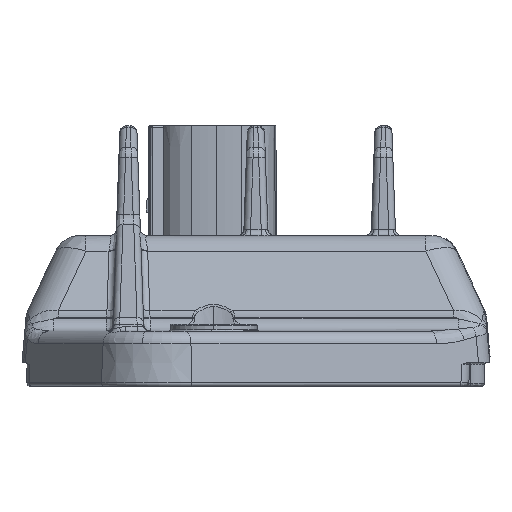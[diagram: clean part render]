
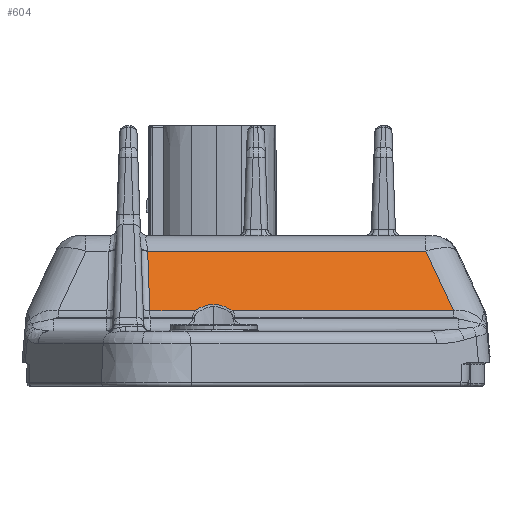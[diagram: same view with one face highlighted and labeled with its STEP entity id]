
A CAD part, left-side view. The second image highlights one B-rep face of the part: STEP entity #604.
In plain terms, the highlighted planar face has unit normal (-0.906, 0, 0.423).
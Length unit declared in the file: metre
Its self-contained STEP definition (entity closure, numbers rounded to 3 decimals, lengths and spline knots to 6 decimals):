
#604=ADVANCED_FACE('57:20342',(#2222),#2223,.T.);
#2222=FACE_OUTER_BOUND('',#7474,.T.);
#2223=PLANE('',#7475);
#7474=EDGE_LOOP('',(#19121,#19122,#19123,#19124,#19125,#19126));
#7475=AXIS2_PLACEMENT_3D('',#19127,#19128,#19129);
#19121=ORIENTED_EDGE('',*,*,#23769,.F.);
#19122=ORIENTED_EDGE('',*,*,#23770,.T.);
#19123=ORIENTED_EDGE('',*,*,#23142,.F.);
#19124=ORIENTED_EDGE('',*,*,#23765,.F.);
#19125=ORIENTED_EDGE('',*,*,#23771,.F.);
#19126=ORIENTED_EDGE('',*,*,#23772,.F.);
#19127=CARTESIAN_POINT('',(-0.06578,0.028425,0.00933));
#19128=DIRECTION('',(-0.906,0.0,0.423));
#19129=DIRECTION('',(0.0,1.0,0.0));
#23142=EDGE_CURVE('57:23804',#26203,#26205,#26206,.T.);
#23765=EDGE_CURVE('57:25817',#27180,#26203,#27182,.T.);
#23769=EDGE_CURVE('57:25829',#27188,#27189,#27190,.T.);
#23770=EDGE_CURVE('57:25832',#27188,#26205,#27191,.T.);
#23771=EDGE_CURVE('57:25835',#27192,#27180,#27193,.T.);
#23772=EDGE_CURVE('57:25838',#27189,#27192,#27194,.T.);
#26203=VERTEX_POINT('',#31377);
#26205=VERTEX_POINT('',#31383);
#26206=LINE('',#31384,#31385);
#27180=VERTEX_POINT('',#33573);
#27182=LINE('',#33575,#33576);
#27188=VERTEX_POINT('',#33585);
#27189=VERTEX_POINT('',#33586);
#27190=LINE('',#33587,#33588);
#27191=LINE('',#33589,#33590);
#27192=VERTEX_POINT('',#33591);
#27193=LINE('',#33592,#33593);
#27194=B_SPLINE_CURVE_WITH_KNOTS('',3,(#33594,#33595,#33596,#33597,#33598,#33599,#33600,#33601,#33602),.UNSPECIFIED.,.F.,.F.,(4,1,1,1,1,1,4),(0.0,0.166667,0.333333,0.5,0.666667,0.833333,1.0),.UNSPECIFIED.);
#31377=CARTESIAN_POINT('',(-0.061415,0.010299,0.01869));
#31383=CARTESIAN_POINT('',(-0.061415,-0.031224,0.01869));
#31384=CARTESIAN_POINT('',(-0.061415,0.010299,0.01869));
#31385=VECTOR('',#37486,0.041522);
#33573=CARTESIAN_POINT('',(-0.065556,0.009989,0.009809));
#33575=CARTESIAN_POINT('',(-0.065556,0.009989,0.009809));
#33576=VECTOR('',#38500,0.009804);
#33585=CARTESIAN_POINT('',(-0.065556,-0.035365,0.009809));
#33586=CARTESIAN_POINT('',(-0.065556,-0.002294,0.009809));
#33587=CARTESIAN_POINT('',(-0.065556,-0.035365,0.009809));
#33588=VECTOR('',#38504,0.033071);
#33589=CARTESIAN_POINT('',(-0.065556,-0.035365,0.009809));
#33590=VECTOR('',#38505,0.010638);
#33591=CARTESIAN_POINT('',(-0.065556,0.003144,0.009809));
#33592=CARTESIAN_POINT('',(-0.065556,0.003144,0.009809));
#33593=VECTOR('',#38506,0.006845);
#33594=CARTESIAN_POINT('',(-0.065556,-0.002294,0.009809));
#33595=CARTESIAN_POINT('',(-0.065459,-0.001989,0.010017));
#33596=CARTESIAN_POINT('',(-0.065302,-0.00138,0.010355));
#33597=CARTESIAN_POINT('',(-0.065164,-0.000467,0.010649));
#33598=CARTESIAN_POINT('',(-0.065121,0.000406,0.010742));
#33599=CARTESIAN_POINT('',(-0.065161,0.001285,0.010657));
#33600=CARTESIAN_POINT('',(-0.065298,0.002215,0.010363));
#33601=CARTESIAN_POINT('',(-0.065458,0.002834,0.01002));
#33602=CARTESIAN_POINT('',(-0.065556,0.003144,0.009809));
#37486=DIRECTION('',(0.,-1.,0.));
#38500=DIRECTION('',(0.422,0.032,0.906));
#38504=DIRECTION('',(0.,1.,0.));
#38505=DIRECTION('',(0.389,0.389,0.835));
#38506=DIRECTION('',(0.,1.,0.));
